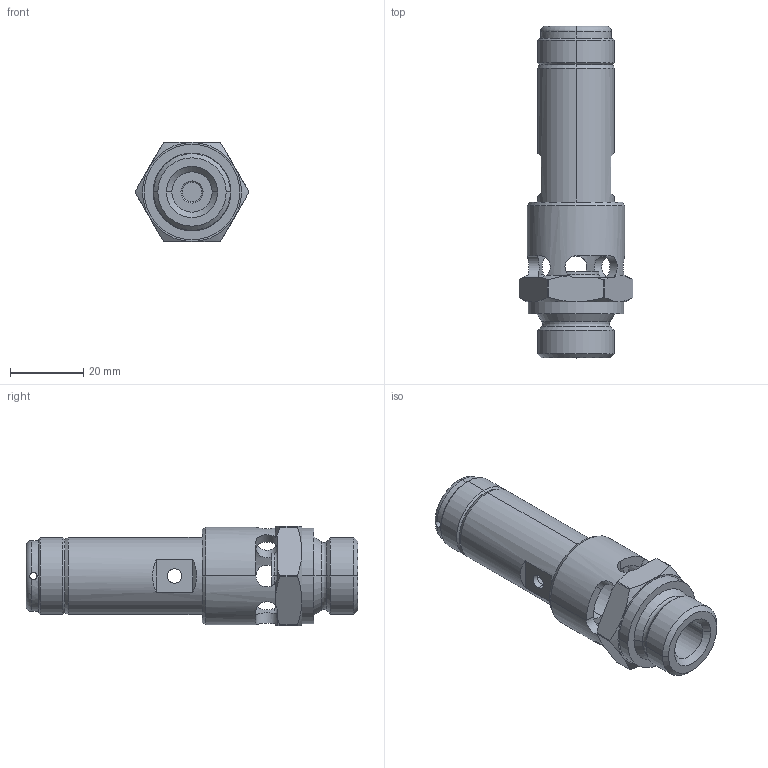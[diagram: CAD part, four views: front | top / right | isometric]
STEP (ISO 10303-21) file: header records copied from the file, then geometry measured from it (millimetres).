
FILE_DESCRIPTION((''),'2;1');
FILE_NAME('R412007693','2018-02-06T',('hug2hc'),(''),'CREO PARAMETRIC BY PTC INC, 2016260','CREO PARAMETRIC BY PTC INC, 2016260','');
FILE_SCHEMA(('CONFIG_CONTROL_DESIGN'));
Length unit declared in the file: millimetre
Products named in the file (1): R412007693
Bounding box: 31 x 90.5 x 27 mm (x, y, z)
Volume: 19733.7 mm3; surface area: 12449.2 mm2
Topology: 1 solids, 1 shells, 131 faces, 350 edges, 226 vertices
Faces by surface type: cylinder 50, cone 36, plane 35, torus 10
Entity records: 5461 total; most frequent: CARTESIAN_POINT 2130, ORIENTED_EDGE 700, DIRECTION 678, EDGE_CURVE 350, AXIS2_PLACEMENT_3D 285, VERTEX_POINT 226, CIRCLE 154, EDGE_LOOP 152
